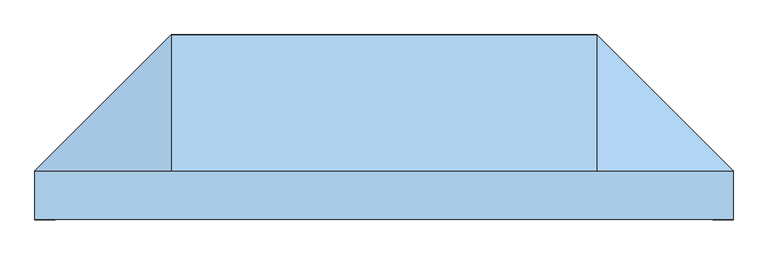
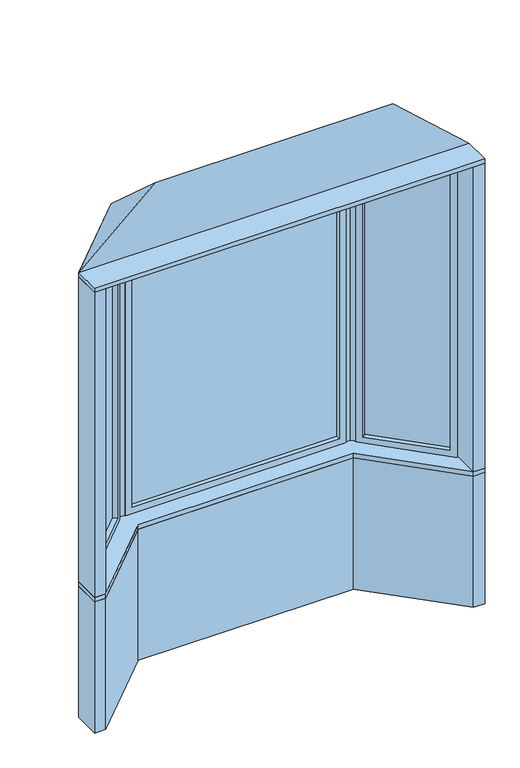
"""IFC4 building model written with IfcOpenShell, lengths in millimetres: window geometry, Pollard_Windows_Tudor Casement Bows and Bays : AML-BAY 45 AFR0518-12-500."""

from ifc_helpers import new_model, si_unit, frame, origin, origin_with_axes, place, context, project, spatial, polyline, outline, extrude, faceted_brep, source, transform, mapped, element, save


def window_93243faa(model_context):
    return source(origin(), model_context, "Body", "SolidModel", [
        extrude(outline(polyline([(1024.0964271, 104.763169), (1020.5043247, 101.1710666), (694.7327115, 426.9426797), (698.324814, 430.5347822), (1024.0964271, 104.763169)])), frame((0.0, 0.0, 823.1628), z_axis=(0.0, 0.0, 1.0), x_axis=(1.0, 0.0, 0.0)), (0.0, 0.0, 1.0), 1753.6704),
        faceted_brep([(1015.116171, 113.7434252, 835.8628), (1015.116171, 113.7434252, 2564.1332), (1033.0766833, 131.7039374, 2564.1332), (1033.0766833, 131.7039374, 835.8628), (1020.5043247, 101.1710666, 823.1628), (1020.5043247, 101.1710666, 2576.8332), (1024.0964271, 104.763169, 2576.8332), (1024.0964271, 104.763169, 823.1628), (993.5635563, 92.1908105, 835.8628), (993.5635563, 92.1908105, 2564.1332), (1011.5240686, 110.1513227, 2564.1332), (1011.5240686, 110.1513227, 835.8628), (1058.4369265, 106.3436941, 799.998), (1058.4369265, 106.3436941, 2599.998), (1018.9237996, 66.8305672, 2599.998), (1018.9237996, 66.8305672, 799.998), (707.3050701, 421.5545261, 2564.1332), (725.2655823, 439.5150383, 2564.1332), (694.7327115, 426.9426797, 2576.8332), (698.324814, 430.5347822, 2576.8332), (685.7524554, 400.0019114, 2564.1332), (703.7129677, 417.9624236, 2564.1332), (699.9053391, 464.8752816, 2599.998), (660.3922121, 425.3621547, 2599.998), (707.3050701, 421.5545261, 835.8628), (725.2655823, 439.5150383, 835.8628), (694.7327115, 426.9426797, 823.1628), (698.324814, 430.5347822, 823.1628), (685.7524554, 400.0019114, 835.8628), (703.7129677, 417.9624236, 835.8628), (699.9053391, 464.8752816, 799.998), (660.3922121, 425.3621547, 799.998)], [[[0, 1, 2, 3]], [[4, 5, 6, 7]], [[8, 9, 10, 11]], [[12, 13, 14, 15]], [[1, 16, 17, 2]], [[5, 18, 19, 6]], [[9, 20, 21, 10]], [[13, 22, 23, 14]], [[16, 24, 25, 17]], [[18, 26, 27, 19]], [[20, 28, 29, 21]], [[22, 30, 31, 23]], [[24, 0, 3, 25]], [[7, 6, 19, 27], [1, 0, 24, 16]], [[26, 4, 7, 27]], [[5, 4, 26, 18], [11, 10, 21, 29]], [[28, 8, 11, 29]], [[15, 14, 23, 31], [9, 8, 28, 20]], [[30, 12, 15, 31]], [[13, 12, 30, 22], [3, 2, 17, 25]]]),
        extrude(outline(polyline([(-698.324814, 430.5347822), (-694.7327115, 426.9426797), (-1020.5043247, 101.1710666), (-1024.0964271, 104.763169), (-698.324814, 430.5347822)])), frame((0.0, 0.0, 823.1628), z_axis=(0.0, 0.0, 1.0), x_axis=(1.0, 0.0, 0.0)), (0.0, 0.0, 1.0), 1753.6704),
        faceted_brep([(-703.7129677, 417.9624236, 2564.1332), (-703.7129677, 417.9624236, 835.8628), (-685.7524554, 400.0019114, 835.8628), (-685.7524554, 400.0019114, 2564.1332), (-698.324814, 430.5347822, 2576.8332), (-698.324814, 430.5347822, 823.1628), (-694.7327115, 426.9426797, 823.1628), (-694.7327115, 426.9426797, 2576.8332), (-725.2655823, 439.5150383, 2564.1332), (-725.2655823, 439.5150383, 835.8628), (-707.3050701, 421.5545261, 835.8628), (-707.3050701, 421.5545261, 2564.1332), (-660.3922121, 425.3621547, 2599.998), (-660.3922121, 425.3621547, 799.998), (-699.9053391, 464.8752816, 799.998), (-699.9053391, 464.8752816, 2599.998), (-1011.5240686, 110.1513227, 835.8628), (-993.5635563, 92.1908105, 835.8628), (-1024.0964271, 104.763169, 823.1628), (-1020.5043247, 101.1710666, 823.1628), (-1033.0766833, 131.7039374, 835.8628), (-1015.116171, 113.7434252, 835.8628), (-1018.9237996, 66.8305672, 799.998), (-1058.4369265, 106.3436941, 799.998), (-1011.5240686, 110.1513227, 2564.1332), (-993.5635563, 92.1908105, 2564.1332), (-1024.0964271, 104.763169, 2576.8332), (-1020.5043247, 101.1710666, 2576.8332), (-1033.0766833, 131.7039374, 2564.1332), (-1015.116171, 113.7434252, 2564.1332), (-1018.9237996, 66.8305672, 2599.998), (-1058.4369265, 106.3436941, 2599.998)], [[[0, 1, 2, 3]], [[4, 5, 6, 7]], [[8, 9, 10, 11]], [[12, 13, 14, 15]], [[1, 16, 17, 2]], [[5, 18, 19, 6]], [[9, 20, 21, 10]], [[13, 22, 23, 14]], [[16, 24, 25, 17]], [[18, 26, 27, 19]], [[20, 28, 29, 21]], [[22, 30, 31, 23]], [[13, 12, 30, 22], [3, 2, 17, 25]], [[24, 0, 3, 25]], [[7, 6, 19, 27], [1, 0, 24, 16]], [[26, 4, 7, 27]], [[5, 4, 26, 18], [11, 10, 21, 29]], [[28, 8, 11, 29]], [[15, 14, 23, 31], [9, 8, 28, 20]], [[30, 12, 15, 31]]]),
        extrude(outline(polyline([(591.3852, 474.8306207), (591.3852, 469.7506207), (-591.3852, 469.7506207), (-591.3852, 474.8306207), (591.3852, 474.8306207)])), frame((0.0, 0.0, 823.1628), z_axis=(0.0, 0.0, 1.0), x_axis=(1.0, 0.0, 0.0)), (0.0, 0.0, 1.0), 1753.6704),
        faceted_brep([(578.6852, 474.8306207, 835.8628), (578.6852, 474.8306207, 2564.1332), (578.6852, 500.2306207, 2564.1332), (578.6852, 500.2306207, 835.8628), (591.3852, 469.7506207, 823.1628), (591.3852, 469.7506207, 2576.8332), (591.3852, 474.8306207, 2576.8332), (591.3852, 474.8306207, 823.1628), (578.6852, 444.3506207, 835.8628), (578.6852, 444.3506207, 2564.1332), (578.6852, 469.7506207, 2564.1332), (578.6852, 469.7506207, 835.8628), (614.55, 500.2306207, 799.998), (614.55, 500.2306207, 2599.998), (614.55, 444.3506207, 2599.998), (614.55, 444.3506207, 799.998), (-578.6852, 474.8306207, 2564.1332), (-578.6852, 500.2306207, 2564.1332), (-591.3852, 469.7506207, 2576.8332), (-591.3852, 474.8306207, 2576.8332), (-578.6852, 444.3506207, 2564.1332), (-578.6852, 469.7506207, 2564.1332), (-614.55, 500.2306207, 2599.998), (-614.55, 444.3506207, 2599.998), (-578.6852, 474.8306207, 835.8628), (-578.6852, 500.2306207, 835.8628), (-591.3852, 469.7506207, 823.1628), (-591.3852, 474.8306207, 823.1628), (-578.6852, 444.3506207, 835.8628), (-578.6852, 469.7506207, 835.8628), (-614.55, 500.2306207, 799.998), (-614.55, 444.3506207, 799.998)], [[[0, 1, 2, 3]], [[4, 5, 6, 7]], [[8, 9, 10, 11]], [[12, 13, 14, 15]], [[1, 16, 17, 2]], [[5, 18, 19, 6]], [[9, 20, 21, 10]], [[13, 22, 23, 14]], [[16, 24, 25, 17]], [[18, 26, 27, 19]], [[20, 28, 29, 21]], [[22, 30, 31, 23]], [[13, 12, 30, 22], [3, 2, 17, 25]], [[24, 0, 3, 25]], [[7, 6, 19, 27], [1, 0, 24, 16]], [[26, 4, 7, 27]], [[5, 4, 26, 18], [11, 10, 21, 29]], [[28, 8, 11, 29]], [[15, 14, 23, 31], [9, 8, 28, 20]], [[30, 12, 15, 31]]]),
        faceted_brep([(1090.0, 74.7806207, 2625.398), (-1090.0, 74.7806207, 2625.398), (-664.55, 500.2306207, 2625.398), (664.55, 500.2306207, 2625.398), (-664.55, 74.7806207, 3006.398), (664.55, 74.7806207, 3006.398)], [[[0, 1, 2, 3]], [[1, 4, 2]], [[2, 4, 5, 3]], [[3, 5, 0]], [[0, 5, 4, 1]]]),
        extrude(outline(polyline([(-1090.0, -77.6193793), (-1090.0, 74.7806207), (-664.55, 500.2306207), (664.55, 500.2306207), (1090.0, 74.7806207), (1090.0, -77.6193793), (-1090.0, -77.6193793)])), frame((0.0, 0.0, 2599.998), z_axis=(0.0, 0.0, 1.0), x_axis=(1.0, 0.0, 0.0)), (0.0, 0.0, 1.0), 25.4),
        extrude(outline(polyline([(-1090.0, 74.7806207), (-1058.4369265, 106.3436941), (-1026.8738531, 74.7806207), (-1026.8738531, -77.6193793), (-1090.0, -77.6193793), (-1090.0, 74.7806207)])), frame((0.0, 0.0, 799.998), z_axis=(0.0, 0.0, 1.0), x_axis=(1.0, 0.0, 0.0)), (0.0, 0.0, 1.0), 1800.0),
        extrude(outline(polyline([(1090.0, -77.6193793), (1026.8738531, -77.6193793), (1026.8738531, 74.7806207), (1058.4369265, 106.3436941), (1090.0, 74.7806207), (1090.0, -77.6193793)])), frame((0.0, 0.0, 799.998), z_axis=(0.0, 0.0, 1.0), x_axis=(1.0, 0.0, 0.0)), (0.0, 0.0, 1.0), 1800.0),
        extrude(outline(polyline([(664.55, 500.2306207), (699.9053391, 464.8752816), (664.55, 429.5199425), (643.8393219, 450.2306207), (614.55, 450.2306207), (614.55, 500.2306207), (664.55, 500.2306207)])), frame((0.0, 0.0, 799.998), z_axis=(0.0, 0.0, 1.0), x_axis=(1.0, 0.0, 0.0)), (0.0, 0.0, 1.0), 1800.0),
        extrude(outline(polyline([(-664.55, 500.2306207), (-614.55, 500.2306207), (-614.55, 450.2306207), (-643.8393219, 450.2306207), (-664.55, 429.5199425), (-699.9053391, 464.8752816), (-664.55, 500.2306207)])), frame((0.0, 0.0, 799.998), z_axis=(0.0, 0.0, 1.0), x_axis=(1.0, 0.0, 0.0)), (0.0, 0.0, 1.0), 1800.0),
        extrude(outline(polyline([(-664.55, 500.2306207), (664.55, 500.2306207), (1090.0, 74.7806207), (1090.0, -77.6193793), (1026.8738531, -77.6193793), (601.4238531, 347.8306207), (-601.4238531, 347.8306207), (-1026.8738531, -77.6193793), (-1090.0, -77.6193793), (-1090.0, 74.7806207), (-664.55, 500.2306207)])), frame((0.0, 0.0, 774.598), z_axis=(0.0, 0.0, 1.0), x_axis=(1.0, 0.0, 0.0)), (0.0, 0.0, 1.0), 25.4),
        extrude(outline(polyline([(-1090.0, 74.7806207), (-664.55, 500.2306207), (664.55, 500.2306207), (1090.0, 74.7806207), (1090.0, -77.6193793), (1026.8738531, -77.6193793), (601.4238531, 347.8306207), (-601.4238531, 347.8306207), (-1026.8738531, -77.6193793), (-1090.0, -77.6193793), (-1090.0, 74.7806207)])), origin_with_axes(), (0.0, 0.0, 1.0), 774.598),
    ])


if __name__ == "__main__":
    model = new_model("IFC4")
    model_context = context("Model", 3, world=origin())
    ifc_project = project(units=[si_unit("LENGTHUNIT", "METRE", prefix="MILLI")], contexts=[model_context])
    site = spatial("IfcSite", under=ifc_project)
    building = spatial("IfcBuilding", under=site)
    placement = place(None, origin())
    window_shape = window_93243faa(model_context)
    element("IfcWindow", 1, ObjectType="Pollard_Windows_Tudor Casement Bows and Bays : AML-BAY 45 AFR0518-12-500", at=placement, inside=building, context=model_context, shape_type="MappedRepresentation", body=[
        mapped(window_shape, transform((0.0, 0.0, 0.0), x_axis=(1.0, 0.0, 0.0), y_axis=(0.0, 1.0, 0.0), z_axis=(0.0, 0.0, 1.0))),
    ])
    save(model, "model.ifc")
